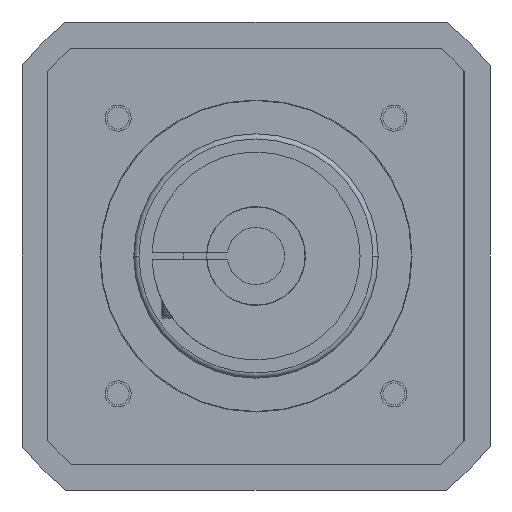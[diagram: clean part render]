
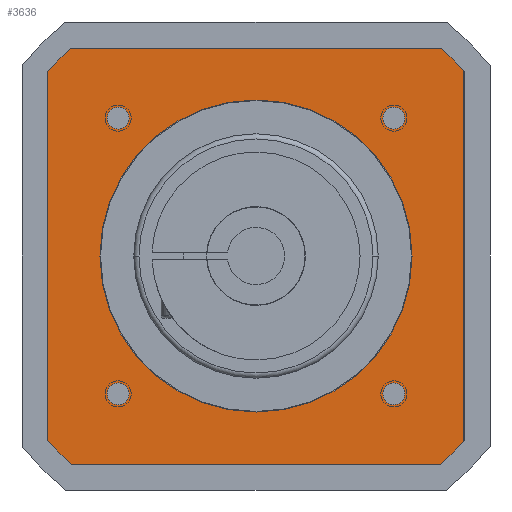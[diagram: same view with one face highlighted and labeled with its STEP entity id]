
A CAD part, left-side view. The second image highlights one B-rep face of the part: STEP entity #3636.
In plain terms, the highlighted planar face has unit normal (-1, 0, 0).
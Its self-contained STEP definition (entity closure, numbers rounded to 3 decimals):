
#832=CARTESIAN_POINT('',(0.,0.,0.));
#833=DIRECTION('',(-1.,0.,0.));
#834=DIRECTION('',(0.,-0.748,0.664));
#835=AXIS2_PLACEMENT_3D('',#832,#833,#834);
#837=DIRECTION('',(0.,0.,1.));
#838=VECTOR('',#837,71.056);
#839=CARTESIAN_POINT('',(0.,-40.,-35.528));
#840=LINE('',#839,#838);
#841=CARTESIAN_POINT('',(0.,0.,0.));
#842=DIRECTION('',(-1.,0.,0.));
#843=DIRECTION('',(0.,-0.664,-0.748));
#844=AXIS2_PLACEMENT_3D('',#841,#842,#843);
#846=DIRECTION('',(0.,-1.,0.));
#847=VECTOR('',#846,71.056);
#848=CARTESIAN_POINT('',(0.,35.528,-40.));
#849=LINE('',#848,#847);
#850=CARTESIAN_POINT('',(0.,0.,0.));
#851=DIRECTION('',(-1.,0.,0.));
#852=DIRECTION('',(0.,0.748,-0.664));
#853=AXIS2_PLACEMENT_3D('',#850,#851,#852);
#855=DIRECTION('',(0.,0.,-1.));
#856=VECTOR('',#855,71.056);
#857=CARTESIAN_POINT('',(0.,40.,35.528));
#858=LINE('',#857,#856);
#859=CARTESIAN_POINT('',(0.,0.,0.));
#860=DIRECTION('',(-1.,0.,0.));
#861=DIRECTION('',(0.,0.664,0.748));
#862=AXIS2_PLACEMENT_3D('',#859,#860,#861);
#864=DIRECTION('',(0.,1.,0.));
#865=VECTOR('',#864,71.056);
#866=CARTESIAN_POINT('',(0.,-35.528,40.));
#867=LINE('',#866,#865);
#868=CARTESIAN_POINT('',(0.,0.,0.));
#869=DIRECTION('',(1.,0.,0.));
#870=DIRECTION('',(0.,-1.,0.));
#871=AXIS2_PLACEMENT_3D('',#868,#869,#870);
#873=CARTESIAN_POINT('',(0.,0.,0.));
#874=DIRECTION('',(1.,0.,0.));
#875=DIRECTION('',(0.,1.,0.));
#876=AXIS2_PLACEMENT_3D('',#873,#874,#875);
#878=CARTESIAN_POINT('',(0.,-26.517,26.517));
#879=DIRECTION('',(-1.,0.,0.));
#880=DIRECTION('',(0.,0.,-1.));
#881=AXIS2_PLACEMENT_3D('',#878,#879,#880);
#883=CARTESIAN_POINT('',(0.,-26.517,26.517));
#884=DIRECTION('',(-1.,0.,0.));
#885=DIRECTION('',(0.,0.,1.));
#886=AXIS2_PLACEMENT_3D('',#883,#884,#885);
#888=CARTESIAN_POINT('',(0.,-26.517,-26.517));
#889=DIRECTION('',(-1.,0.,0.));
#890=DIRECTION('',(0.,0.,-1.));
#891=AXIS2_PLACEMENT_3D('',#888,#889,#890);
#893=CARTESIAN_POINT('',(0.,-26.517,-26.517));
#894=DIRECTION('',(-1.,0.,0.));
#895=DIRECTION('',(0.,0.,1.));
#896=AXIS2_PLACEMENT_3D('',#893,#894,#895);
#898=CARTESIAN_POINT('',(0.,26.517,-26.517));
#899=DIRECTION('',(-1.,0.,0.));
#900=DIRECTION('',(0.,0.,-1.));
#901=AXIS2_PLACEMENT_3D('',#898,#899,#900);
#903=CARTESIAN_POINT('',(0.,26.517,-26.517));
#904=DIRECTION('',(-1.,0.,0.));
#905=DIRECTION('',(0.,0.,1.));
#906=AXIS2_PLACEMENT_3D('',#903,#904,#905);
#908=CARTESIAN_POINT('',(0.,26.517,26.517));
#909=DIRECTION('',(-1.,0.,0.));
#910=DIRECTION('',(0.,0.,-1.));
#911=AXIS2_PLACEMENT_3D('',#908,#909,#910);
#913=CARTESIAN_POINT('',(0.,26.517,26.517));
#914=DIRECTION('',(-1.,0.,0.));
#915=DIRECTION('',(0.,0.,1.));
#916=AXIS2_PLACEMENT_3D('',#913,#914,#915);
#2145=CARTESIAN_POINT('',(0.,-40.,35.528));
#2146=CARTESIAN_POINT('',(0.,-35.528,40.));
#2147=VERTEX_POINT('',#2145);
#2148=VERTEX_POINT('',#2146);
#2149=CARTESIAN_POINT('',(0.,35.528,40.));
#2150=VERTEX_POINT('',#2149);
#2151=CARTESIAN_POINT('',(0.,40.,35.528));
#2152=VERTEX_POINT('',#2151);
#2153=CARTESIAN_POINT('',(0.,40.,-35.528));
#2154=VERTEX_POINT('',#2153);
#2155=CARTESIAN_POINT('',(0.,35.528,-40.));
#2156=VERTEX_POINT('',#2155);
#2157=CARTESIAN_POINT('',(0.,-35.528,-40.));
#2158=VERTEX_POINT('',#2157);
#2159=CARTESIAN_POINT('',(0.,-40.,-35.528));
#2160=VERTEX_POINT('',#2159);
#2177=CARTESIAN_POINT('',(0.,-30.,0.));
#2178=CARTESIAN_POINT('',(0.,30.,0.));
#2179=VERTEX_POINT('',#2177);
#2180=VERTEX_POINT('',#2178);
#2197=CARTESIAN_POINT('',(0.,-26.517,24.417));
#2198=CARTESIAN_POINT('',(0.,-26.517,28.617));
#2199=VERTEX_POINT('',#2197);
#2200=VERTEX_POINT('',#2198);
#2201=CARTESIAN_POINT('',(0.,-26.517,-28.617));
#2202=CARTESIAN_POINT('',(0.,-26.517,-24.417));
#2203=VERTEX_POINT('',#2201);
#2204=VERTEX_POINT('',#2202);
#2205=CARTESIAN_POINT('',(0.,26.517,-28.617));
#2206=CARTESIAN_POINT('',(0.,26.517,-24.417));
#2207=VERTEX_POINT('',#2205);
#2208=VERTEX_POINT('',#2206);
#2209=CARTESIAN_POINT('',(0.,26.517,24.417));
#2210=CARTESIAN_POINT('',(0.,26.517,28.617));
#2211=VERTEX_POINT('',#2209);
#2212=VERTEX_POINT('',#2210);
#3591=CARTESIAN_POINT('',(0.,0.,0.));
#3592=DIRECTION('',(-1.,0.,0.));
#3593=DIRECTION('',(0.,0.,-1.));
#3594=AXIS2_PLACEMENT_3D('',#3591,#3592,#3593);
#3595=PLANE('',#3594);
#3596=ORIENTED_EDGE('',*,*,#3481,.F.);
#3597=ORIENTED_EDGE('',*,*,#3496,.F.);
#3598=ORIENTED_EDGE('',*,*,#3510,.F.);
#3599=ORIENTED_EDGE('',*,*,#3524,.F.);
#3600=ORIENTED_EDGE('',*,*,#3544,.F.);
#3601=ORIENTED_EDGE('',*,*,#3558,.F.);
#3602=ORIENTED_EDGE('',*,*,#3572,.F.);
#3603=ORIENTED_EDGE('',*,*,#3585,.F.);
#3604=EDGE_LOOP('',(#3596,#3597,#3598,#3599,#3600,#3601,#3602,#3603));
#3605=FACE_OUTER_BOUND('',#3604,.F.);
#3607=ORIENTED_EDGE('',*,*,#3606,.F.);
#3609=ORIENTED_EDGE('',*,*,#3608,.F.);
#3610=EDGE_LOOP('',(#3607,#3609));
#3611=FACE_BOUND('',#3610,.F.);
#3613=ORIENTED_EDGE('',*,*,#3612,.T.);
#3615=ORIENTED_EDGE('',*,*,#3614,.T.);
#3616=EDGE_LOOP('',(#3613,#3615));
#3617=FACE_BOUND('',#3616,.F.);
#3619=ORIENTED_EDGE('',*,*,#3618,.T.);
#3621=ORIENTED_EDGE('',*,*,#3620,.T.);
#3622=EDGE_LOOP('',(#3619,#3621));
#3623=FACE_BOUND('',#3622,.F.);
#3625=ORIENTED_EDGE('',*,*,#3624,.T.);
#3627=ORIENTED_EDGE('',*,*,#3626,.T.);
#3628=EDGE_LOOP('',(#3625,#3627));
#3629=FACE_BOUND('',#3628,.F.);
#3631=ORIENTED_EDGE('',*,*,#3630,.T.);
#3633=ORIENTED_EDGE('',*,*,#3632,.T.);
#3634=EDGE_LOOP('',(#3631,#3633));
#3635=FACE_BOUND('',#3634,.F.);
#836=CIRCLE('',#835,53.5);
#845=CIRCLE('',#844,53.5);
#854=CIRCLE('',#853,53.5);
#863=CIRCLE('',#862,53.5);
#872=CIRCLE('',#871,30.);
#877=CIRCLE('',#876,30.);
#882=CIRCLE('',#881,2.1);
#887=CIRCLE('',#886,2.1);
#892=CIRCLE('',#891,2.1);
#897=CIRCLE('',#896,2.1);
#902=CIRCLE('',#901,2.1);
#907=CIRCLE('',#906,2.1);
#912=CIRCLE('',#911,2.1);
#917=CIRCLE('',#916,2.1);
#3481=EDGE_CURVE('',#2147,#2148,#836,.T.);
#3496=EDGE_CURVE('',#2160,#2147,#840,.T.);
#3510=EDGE_CURVE('',#2158,#2160,#845,.T.);
#3524=EDGE_CURVE('',#2156,#2158,#849,.T.);
#3544=EDGE_CURVE('',#2154,#2156,#854,.T.);
#3558=EDGE_CURVE('',#2152,#2154,#858,.T.);
#3572=EDGE_CURVE('',#2150,#2152,#863,.T.);
#3585=EDGE_CURVE('',#2148,#2150,#867,.T.);
#3606=EDGE_CURVE('',#2179,#2180,#872,.T.);
#3608=EDGE_CURVE('',#2180,#2179,#877,.T.);
#3612=EDGE_CURVE('',#2199,#2200,#882,.T.);
#3614=EDGE_CURVE('',#2200,#2199,#887,.T.);
#3618=EDGE_CURVE('',#2203,#2204,#892,.T.);
#3620=EDGE_CURVE('',#2204,#2203,#897,.T.);
#3624=EDGE_CURVE('',#2207,#2208,#902,.T.);
#3626=EDGE_CURVE('',#2208,#2207,#907,.T.);
#3630=EDGE_CURVE('',#2211,#2212,#912,.T.);
#3632=EDGE_CURVE('',#2212,#2211,#917,.T.);
#3636=ADVANCED_FACE('',(#3605,#3611,#3617,#3623,#3629,#3635),#3595,.T.);
